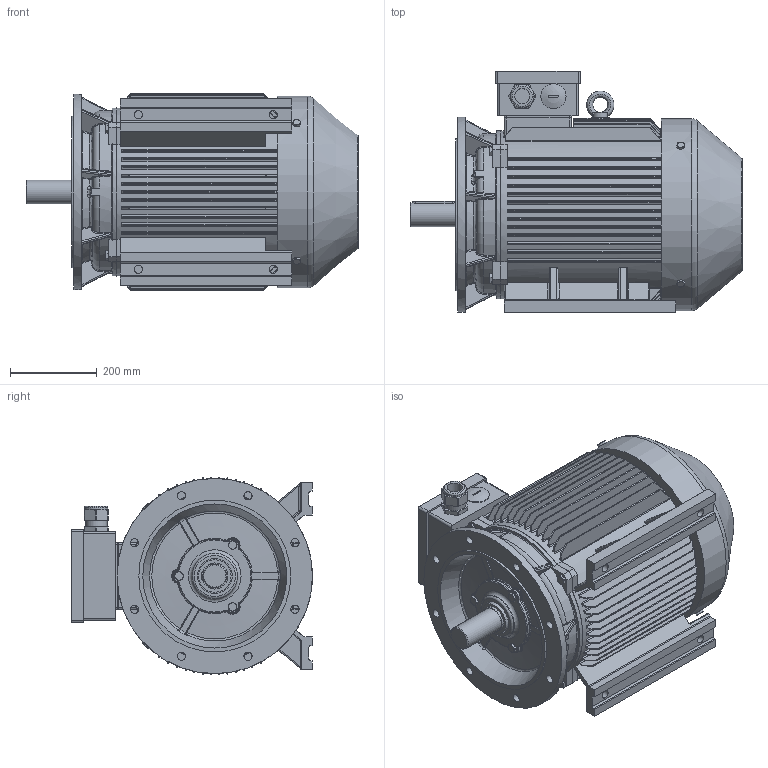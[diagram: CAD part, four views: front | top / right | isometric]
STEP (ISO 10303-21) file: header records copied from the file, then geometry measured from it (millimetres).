
FILE_DESCRIPTION(/* description */ ('01-IP55-Cast Iron-IE4-225M VB35-2'),/* implementation_level */ '2;1');
FILE_NAME(/* name */ 'D:\02 - Onedrive\OneDrive\01 - Werkbestanden\121 - OMEC\1408 - MOTOREN CAD BIBLIOTHEEK\1408 - Gereed\OMT1-IE4\01-IP55-Cast Iron-IE4-225M VB35-2.stp',/* time_stamp */ '2017-10-17T09:44:49+02:00',/* author */ ('freek'),/* organization */ (''),/* preprocessor_version */ 'ST-DEVELOPER v16.1',/* originating_system */ 'Autodesk Inventor 2016',/* authorisation */ '');
FILE_SCHEMA (('AUTOMOTIVE_DESIGN { 1 0 10303 214 3 1 1 }'));
Products named in the file (1): 1408-742
Bounding box: 765.1 x 555 x 455.79 mm (x, y, z)
Volume: 83748200.2 mm3; surface area: 3096095.4 mm2
Topology: 5 solids, 15 shells, 2678 faces, 6666 edges, 4313 vertices
Faces by surface type: plane 1801, cylinder 436, cone 195, bspline 183, torus 61, sphere 2
Full cylindrical faces by diameter (mm): 8 x1, 11.053 x4, 11.459 x3, 12 x17, 15.4 x4, 17.2 x7, 19 x12, 30 x3, 35 x1, 50 x1, 53 x1, 55 x1, 58 x1, 60 x1, 74.8 x1, 80.2 x1, 105 x1, 250 x1, 350 x1, 388 x1, 442 x1, 450 x1
Entity records: 92342 total; most frequent: CARTESIAN_POINT 28006, ORIENTED_EDGE 13116, DIRECTION 11768, EDGE_CURVE 6549, LINE 4288, VECTOR 4288, VERTEX_POINT 4285, AXIS2_PLACEMENT_3D 3740
